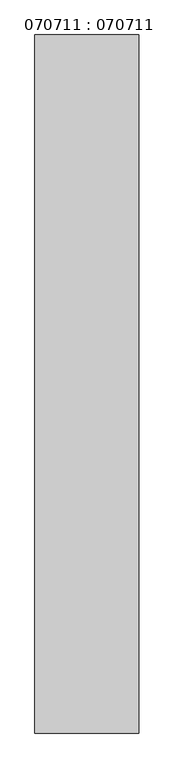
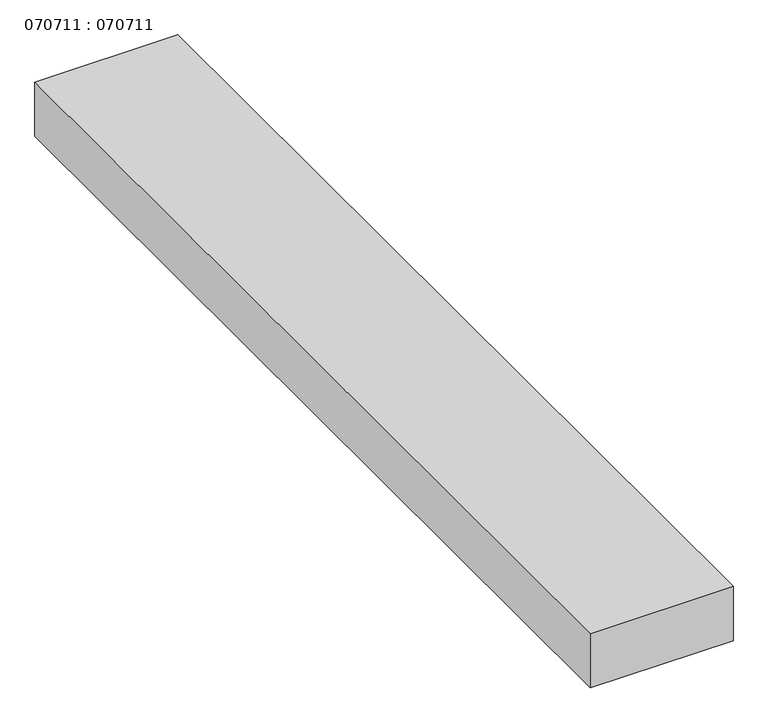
"""IFC4 building model written with IfcOpenShell, lengths in millimetres: proxy geometry, 070711 : 070711."""

from ifc_helpers import new_model, si_unit, origin, origin_with_axes, place, context, project, spatial, polyline, outline, extrude, source, transform, mapped, element, save


def proxy_070711_070711_dce7310f(model_context):
    return source(origin(), model_context, "Body", "SweptSolid", [
        extrude(outline(polyline([(250.0, 1680.5), (250.0, 0.0), (0.0, 0.0), (0.0, 1680.5), (250.0, 1680.5)])), origin_with_axes(), (0.0, 0.0, 1.0), 100.0),
    ])


if __name__ == "__main__":
    model = new_model("IFC4")
    model_context = context("Model", 3, world=origin())
    ifc_project = project(units=[si_unit("LENGTHUNIT", "METRE", prefix="MILLI")], contexts=[model_context])
    site = spatial("IfcSite", under=ifc_project)
    building = spatial("IfcBuilding", under=site)
    placement = place(None, origin())
    proxy_070711_070711_shape = proxy_070711_070711_dce7310f(model_context)
    element("IfcBuildingElementProxy", 1, Name="070711 : 070711", ObjectType="070711 : 070711", at=placement, inside=building, context=model_context, shape_type="MappedRepresentation", body=[
        mapped(proxy_070711_070711_shape, transform((0.0, 0.0, 0.0), x_axis=(1.0, 0.0, 0.0), y_axis=(0.0, 1.0, 0.0), z_axis=(0.0, 0.0, 1.0))),
    ])
    save(model, "model.ifc")
